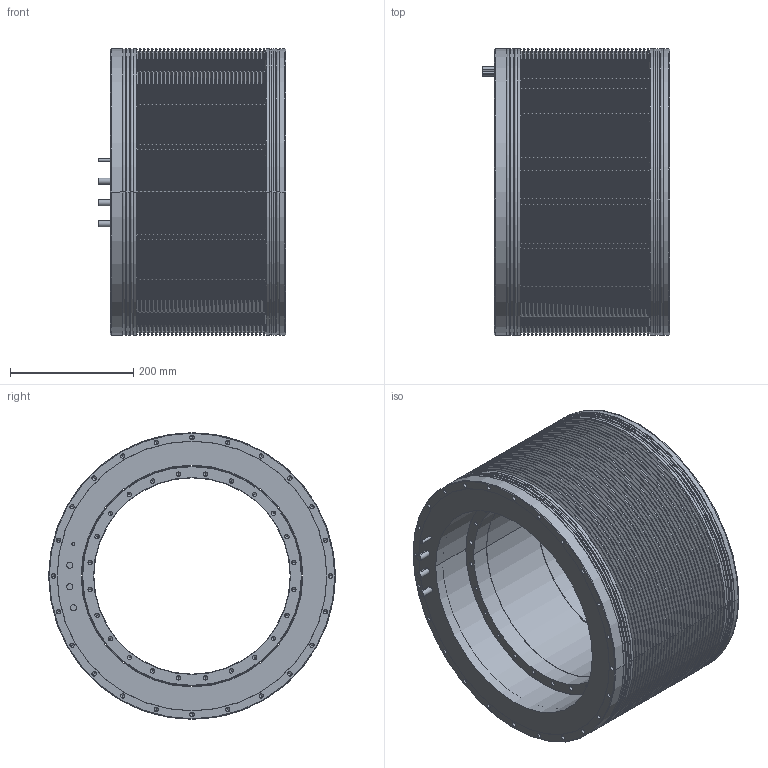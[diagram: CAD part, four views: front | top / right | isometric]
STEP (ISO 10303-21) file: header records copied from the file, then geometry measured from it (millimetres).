
FILE_DESCRIPTION((''),'2;1');
FILE_NAME('TK450-160','2017-10-26T',('stefanos'),(''),'CREO PARAMETRIC BY PTC INC, 2015480','CREO PARAMETRIC BY PTC INC, 2015480','');
FILE_SCHEMA(('CONFIG_CONTROL_DESIGN'));
Length unit declared in the file: millimetre
Products named in the file (1): TK450-160
Bounding box: 305 x 466 x 466 mm (x, y, z)
Volume: 22197556.1 mm3; surface area: 3173916.2 mm2
Topology: 9 solids, 9 shells, 709 faces, 1562 edges, 818 vertices
Faces by surface type: cylinder 344, cone 296, plane 37, torus 16, revolution 16
Entity records: 19716 total; most frequent: CARTESIAN_POINT 4465, DIRECTION 3534, ORIENTED_EDGE 2836, AXIS2_PLACEMENT_3D 1439, EDGE_CURVE 1418, VERTEX_POINT 818, EDGE_LOOP 818, CIRCLE 746
